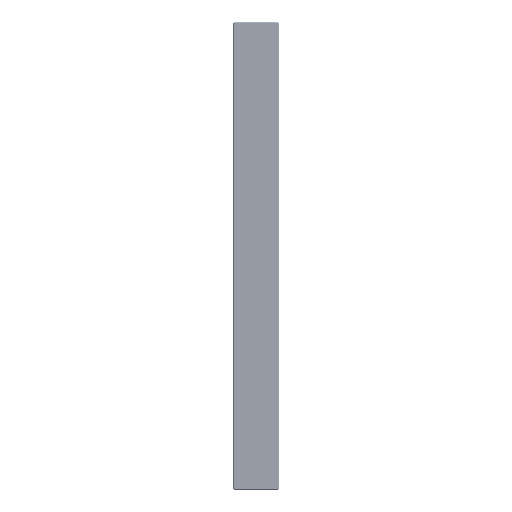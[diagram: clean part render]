
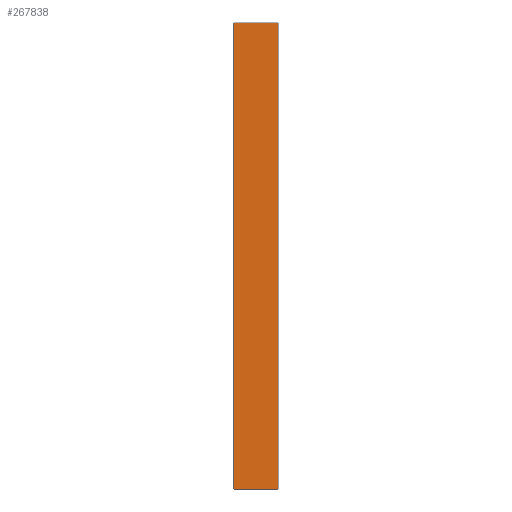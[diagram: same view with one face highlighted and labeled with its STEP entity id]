
A CAD part, front view. The second image highlights one B-rep face of the part: STEP entity #267838.
In plain terms, the highlighted planar face has unit normal (0, -1, 0).
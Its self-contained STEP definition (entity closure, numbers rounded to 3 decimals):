
#100656=DIRECTION('',(0.,0.,-1.));
#100657=VECTOR('',#100656,99.4);
#100658=CARTESIAN_POINT('',(9.7,-300.,49.7));
#100659=LINE('',#100658,#100657);
#100660=DIRECTION('',(-1.,0.,0.));
#100661=VECTOR('',#100660,9.4);
#100662=CARTESIAN_POINT('',(9.7,-300.,-49.7));
#100663=LINE('',#100662,#100661);
#100664=DIRECTION('',(0.,0.,1.));
#100665=VECTOR('',#100664,99.4);
#100666=CARTESIAN_POINT('',(0.3,-300.,-49.7));
#100667=LINE('',#100666,#100665);
#100668=DIRECTION('',(-1.,0.,0.));
#100669=VECTOR('',#100668,9.4);
#100670=CARTESIAN_POINT('',(9.7,-300.,49.7));
#100671=LINE('',#100670,#100669);
#107159=CARTESIAN_POINT('',(9.7,-300.,49.7));
#107160=CARTESIAN_POINT('',(9.7,-300.,-49.7));
#107161=VERTEX_POINT('',#107159);
#107162=VERTEX_POINT('',#107160);
#107165=CARTESIAN_POINT('',(0.3,-300.,49.7));
#107166=VERTEX_POINT('',#107165);
#107169=CARTESIAN_POINT('',(0.3,-300.,-49.7));
#107170=VERTEX_POINT('',#107169);
#267826=CARTESIAN_POINT('',(0.,-300.,50.));
#267827=DIRECTION('',(0.,-1.,0.));
#267828=DIRECTION('',(0.,0.,-1.));
#267829=AXIS2_PLACEMENT_3D('',#267826,#267827,#267828);
#267830=PLANE('',#267829);
#267832=ORIENTED_EDGE('',*,*,#267831,.T.);
#267833=ORIENTED_EDGE('',*,*,#267784,.T.);
#267834=ORIENTED_EDGE('',*,*,#267802,.T.);
#267835=ORIENTED_EDGE('',*,*,#267814,.F.);
#267836=EDGE_LOOP('',(#267832,#267833,#267834,#267835));
#267837=FACE_OUTER_BOUND('',#267836,.F.);
#267838=ADVANCED_FACE('',(#267837),#267830,.T.);
#267784=EDGE_CURVE('',#107162,#107170,#100663,.T.);
#267802=EDGE_CURVE('',#107170,#107166,#100667,.T.);
#267814=EDGE_CURVE('',#107161,#107166,#100671,.T.);
#267831=EDGE_CURVE('',#107161,#107162,#100659,.T.);
